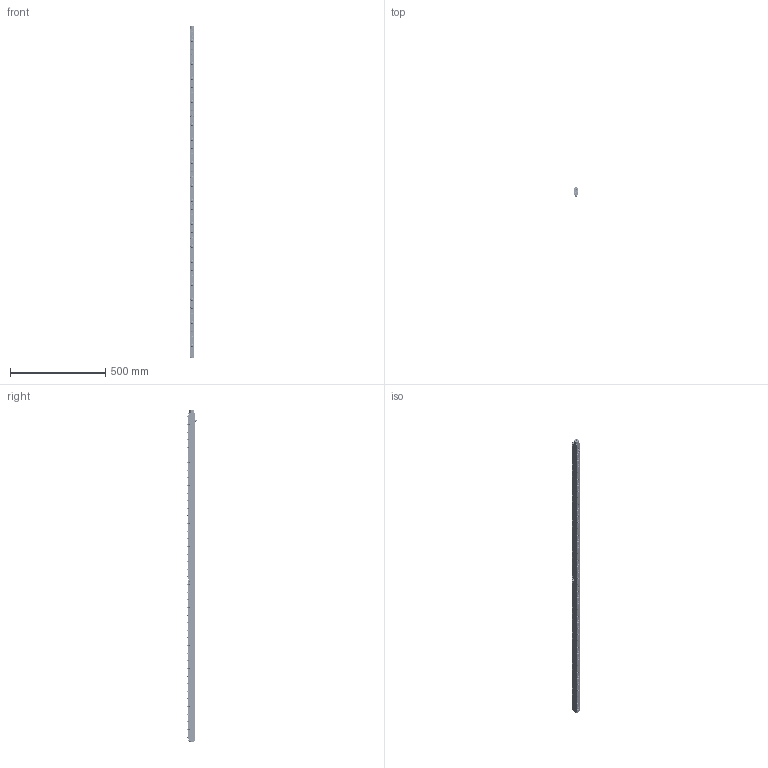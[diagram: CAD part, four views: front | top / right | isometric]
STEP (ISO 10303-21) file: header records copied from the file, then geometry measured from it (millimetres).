
FILE_DESCRIPTION(/* description */ ('EHR22-43'),/* implementation_level */ '2;1');
FILE_NAME(/* name */ 'S:\EASCN Vault\Designs\Standard Part\DIE LIFTERS\EHR\EHR- 3D step\EHR22 - 3D step complete serie\EHR22-43.stp',/* time_stamp */ '2019-10-29T13:17:08+08:00',/* author */ ('yue.yang'),/* organization */ (''),/* preprocessor_version */ 'ST-DEVELOPER v17',/* originating_system */ 'Autodesk Inventor 2019',/* authorisation */ '');
FILE_SCHEMA (('AUTOMOTIVE_DESIGN { 1 0 10303 214 3 1 1 }'));
Products named in the file (2): EHR22-43; EHR22-43_Substitute_1
Assembly tree (1 placements, depth 2):
  EHR22-43
    EHR22-43_Substitute_1
Bounding box: 21.8 x 48.05 x 1742 mm (x, y, z)
Volume: 1070679 mm3; surface area: 437198.9 mm2
Topology: 147 solids, 147 shells, 2357 faces, 6641 edges, 4615 vertices
Faces by surface type: cylinder 820, plane 554, cone 500, torus 395, sphere 88
Full cylindrical faces by diameter (mm): 2.459 x16, 3 x9, 3.2 x8, 4 x20, 5 x129, 6 x53, 7.5 x2, 8.566 x1, 10 x11, 11 x43, 12.5 x86, 13.4 x43, 13.8 x43, 15.95 x86, 16 x86
Entity records: 86216 total; most frequent: CARTESIAN_POINT 19246, DIRECTION 14976, ORIENTED_EDGE 13144, AXIS2_PLACEMENT_3D 6679, EDGE_CURVE 6572, VERTEX_POINT 4615, CIRCLE 4319, EDGE_LOOP 2783
